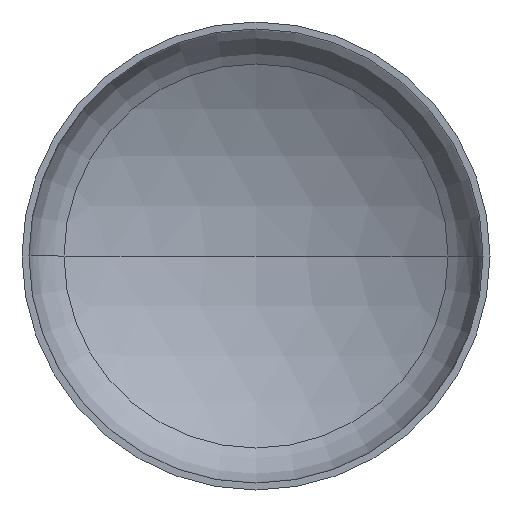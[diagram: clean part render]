
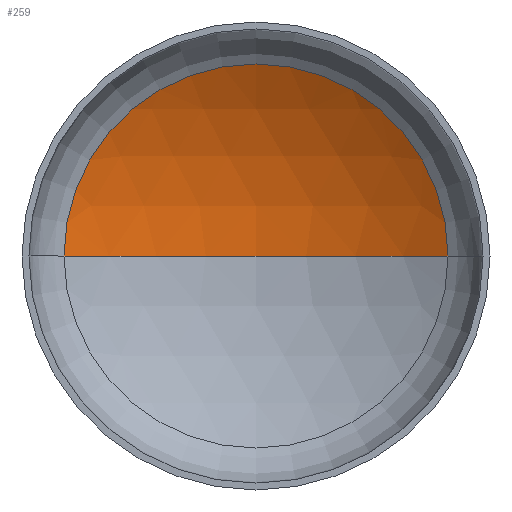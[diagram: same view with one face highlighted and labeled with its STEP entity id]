
A CAD part, front view. The second image highlights one B-rep face of the part: STEP entity #259.
In plain terms, the highlighted spherical face has radius 5200 mm.
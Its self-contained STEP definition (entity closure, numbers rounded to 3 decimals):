
#34 = AXIS2_PLACEMENT_3D ( 'NONE', #393, #144, #389 ) ;
#37 = CIRCLE ( 'NONE', #58, 5200. ) ;
#56 = VERTEX_POINT ( 'NONE', #362 ) ;
#58 = AXIS2_PLACEMENT_3D ( 'NONE', #303, #301, #376 ) ;
#59 = AXIS2_PLACEMENT_3D ( 'NONE', #154, #160, #163 ) ;
#63 = AXIS2_PLACEMENT_3D ( 'NONE', #145, #273, #168 ) ;
#72 = CARTESIAN_POINT ( 'NONE',  ( -2666.857, 958.474, 0. ) ) ;
#122 = EDGE_CURVE ( 'NONE', #56, #139, #185, .T. ) ;
#131 = EDGE_CURVE ( 'NONE', #343, #56, #373, .T. ) ;
#134 = EDGE_CURVE ( 'NONE', #343, #139, #37, .T. ) ;
#139 = VERTEX_POINT ( 'NONE', #72 ) ;
#144 = DIRECTION ( 'NONE',  ( 0., 0., -1. ) ) ;
#145 = CARTESIAN_POINT ( 'NONE',  ( 0., 958.474, 0. ) ) ;
#154 = CARTESIAN_POINT ( 'NONE',  ( 0., -3505.591, 0. ) ) ;
#160 = DIRECTION ( 'NONE',  ( 0., 0., -1. ) ) ;
#163 = DIRECTION ( 'NONE',  ( -1., 0., 0. ) ) ;
#166 = ORIENTED_EDGE ( 'NONE', *, *, #122, .T. ) ;
#167 = EDGE_LOOP ( 'NONE', ( #186, #177, #166 ) ) ;
#168 = DIRECTION ( 'NONE',  ( 1., 0., 0. ) ) ;
#177 = ORIENTED_EDGE ( 'NONE', *, *, #131, .T. ) ;
#185 = CIRCLE ( 'NONE', #63, 2666.857 ) ;
#186 = ORIENTED_EDGE ( 'NONE', *, *, #134, .F. ) ;
#230 = SPHERICAL_SURFACE ( 'NONE', #34, 5200. ) ;
#259 = ADVANCED_FACE ( 'NONE', ( #405 ), #230, .F. ) ;
#273 = DIRECTION ( 'NONE',  ( 0., -1., 0. ) ) ;
#301 = DIRECTION ( 'NONE',  ( 0., 0., 1. ) ) ;
#303 = CARTESIAN_POINT ( 'NONE',  ( 0., -3505.591, 0. ) ) ;
#308 = CARTESIAN_POINT ( 'NONE',  ( 0., 1694.409, 0. ) ) ;
#343 = VERTEX_POINT ( 'NONE', #308 ) ;
#362 = CARTESIAN_POINT ( 'NONE',  ( 2666.857, 958.474, 0. ) ) ;
#373 = CIRCLE ( 'NONE', #59, 5200. ) ;
#376 = DIRECTION ( 'NONE',  ( 1., 0., 0. ) ) ;
#389 = DIRECTION ( 'NONE',  ( -1., 0., 0. ) ) ;
#393 = CARTESIAN_POINT ( 'NONE',  ( 0., -3505.591, 0. ) ) ;
#405 = FACE_OUTER_BOUND ( 'NONE', #167, .T. ) ;
